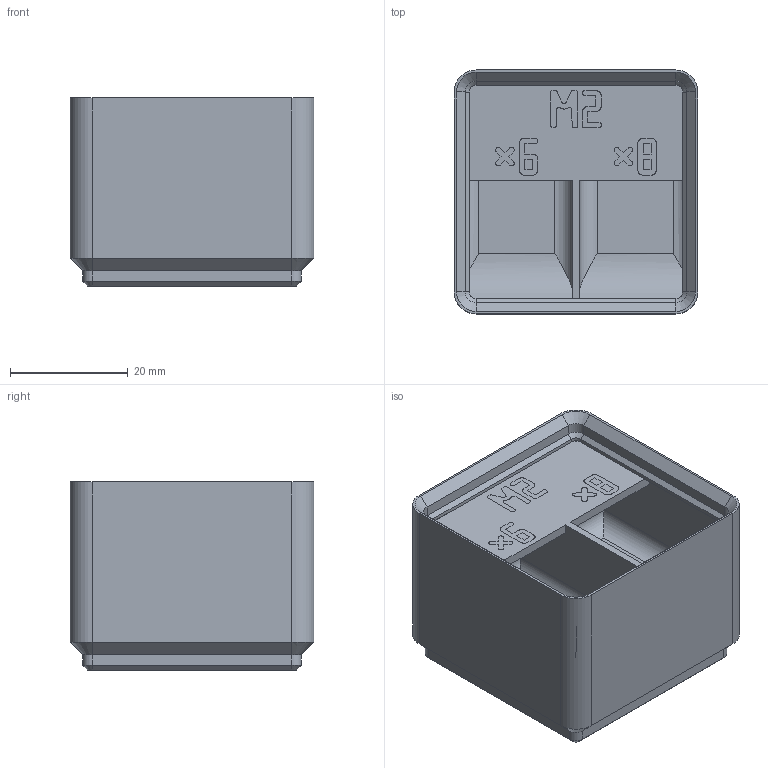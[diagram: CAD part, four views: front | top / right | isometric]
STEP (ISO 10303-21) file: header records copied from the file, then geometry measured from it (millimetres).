
FILE_DESCRIPTION(('Open CASCADE Model'),'2;1');
FILE_NAME('bin_M2_6-8','2026-11-03T10:51:44',('Author'),('Open CASCADE') ,'Open CASCADE STEP processor 8.0','build123d','Unknown');
FILE_SCHEMA(('AUTOMOTIVE_DESIGN { 1 0 10303 214 1 1 1 1 }'));
Length unit declared in the file: millimetre
Products named in the file (3): bin_M2_6-8; M2_6-8_body; M2_6-8_label
Assembly tree (2 placements, depth 2):
  bin_M2_6-8
    M2_6-8_body
    M2_6-8_label
Bounding box: 41.5 x 41.5 x 32 mm (x, y, z)
Volume: 30935.7 mm3; surface area: 12397.3 mm2
Topology: 7 solids, 7 shells, 1324 faces, 3840 edges, 2540 vertices
Faces by surface type: plane 1280, cylinder 24, cone 20
Entity records: 92990 total; most frequent: CARTESIAN_POINT 16287, DIRECTION 13966, LINE 11184, VECTOR 11184, ORIENTED_EDGE 7680, PCURVE 7680, DEFINITIONAL_REPRESENTATION 7680, EDGE_CURVE 3840
